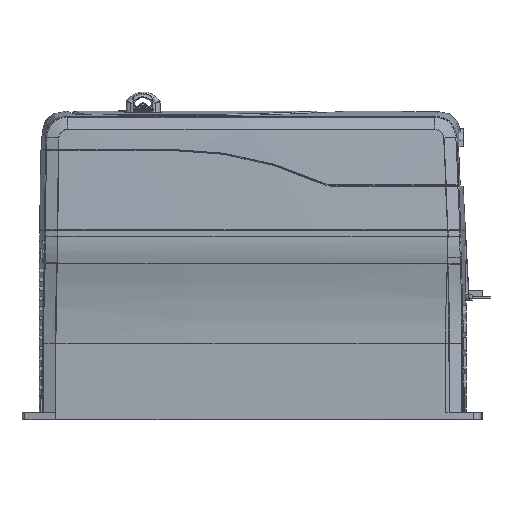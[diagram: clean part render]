
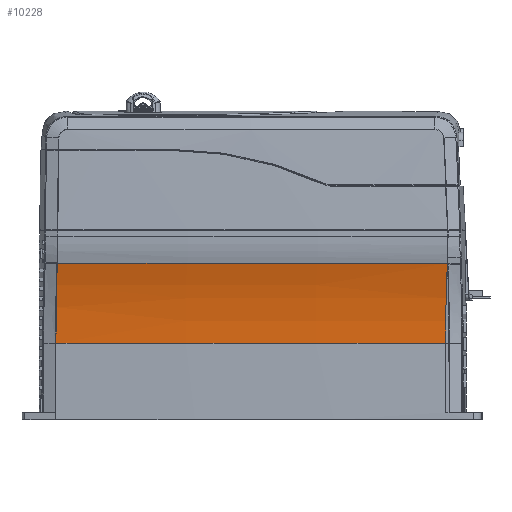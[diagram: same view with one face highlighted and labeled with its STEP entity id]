
A CAD part, left-side view. The second image highlights one B-rep face of the part: STEP entity #10228.
In plain terms, the highlighted toroidal (fillet/blend) face has major radius 3586.99 mm and minor radius 171.75 mm.
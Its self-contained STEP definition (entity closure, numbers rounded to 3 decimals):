
#649=CARTESIAN_POINT('',(-37.83,59.755,43.));
#650=CARTESIAN_POINT('',(-37.83,59.755,58.155));
#651=CARTESIAN_POINT('',(-39.859,59.527,73.319));
#652=CARTESIAN_POINT('',(-43.84,58.971,87.932));
#654=CARTESIAN_POINT('',(-43.857,-159.931,87.931));
#655=CARTESIAN_POINT('',(-42.541,-159.721,83.056));
#656=CARTESIAN_POINT('',(-40.339,-159.371,73.189));
#657=CARTESIAN_POINT('',(-38.346,-159.053,58.152));
#658=CARTESIAN_POINT('',(-37.903,-158.983,48.051));
#659=CARTESIAN_POINT('',(-37.903,-158.983,43.));
#661=CARTESIAN_POINT('',(3375.622,-50.75,43.));
#662=DIRECTION('',(0.,0.,-1.));
#663=DIRECTION('',(-0.999,-0.032,0.));
#664=AXIS2_PLACEMENT_3D('',#661,#662,#663);
#683=CARTESIAN_POINT('',(-43.84,58.971,87.932));
#762=CARTESIAN_POINT('',(3375.622,-50.75,87.931));
#763=DIRECTION('',(0.,0.,-1.));
#764=DIRECTION('',(-0.999,-0.032,0.));
#765=AXIS2_PLACEMENT_3D('',#762,#763,#764);
#7336=CARTESIAN_POINT('',(-37.83,59.755,43.));
#7337=VERTEX_POINT('',#7336);
#7342=VERTEX_POINT('',#683);
#7358=CARTESIAN_POINT('',(-43.857,-159.931,
87.931));
#7360=VERTEX_POINT('',#7358);
#8675=CARTESIAN_POINT('',(-37.903,-158.983,
43.));
#8676=VERTEX_POINT('',#8675);
#10214=CARTESIAN_POINT('',(3375.622,-50.75,
43.));
#10215=DIRECTION('',(0.,0.,1.));
#10216=DIRECTION('',(-0.999,-0.033,0.));
#10217=AXIS2_PLACEMENT_3D('',#10214,#10215,#10216);
#10218=TOROIDAL_SURFACE('',#10217,3586.99,171.75);
#10220=ORIENTED_EDGE('',*,*,#10219,.T.);
#10222=ORIENTED_EDGE('',*,*,#10221,.F.);
#10224=ORIENTED_EDGE('',*,*,#10223,.T.);
#10225=ORIENTED_EDGE('',*,*,#10126,.T.);
#10226=EDGE_LOOP('',(#10220,#10222,#10224,#10225));
#10227=FACE_OUTER_BOUND('',#10226,.F.);
#10228=ADVANCED_FACE('',(#10227),#10218,.F.);
#653=B_SPLINE_CURVE_WITH_KNOTS('',3,(#649,#650,#651,#652),.UNSPECIFIED.,.F.,.F.,
(4,4),(0.,1.),.UNSPECIFIED.);
#660=B_SPLINE_CURVE_WITH_KNOTS('',3,(#654,#655,#656,#657,#658,#659),
.UNSPECIFIED.,.F.,.F.,(4,1,1,4),(0.,0.333,0.667,1.),
.UNSPECIFIED.);
#665=CIRCLE('',#664,3415.24);
#766=CIRCLE('',#765,3421.221);
#10126=EDGE_CURVE('',#8676,#7337,#665,.T.);
#10219=EDGE_CURVE('',#7337,#7342,#653,.T.);
#10221=EDGE_CURVE('',#7360,#7342,#766,.T.);
#10223=EDGE_CURVE('',#7360,#8676,#660,.T.);
